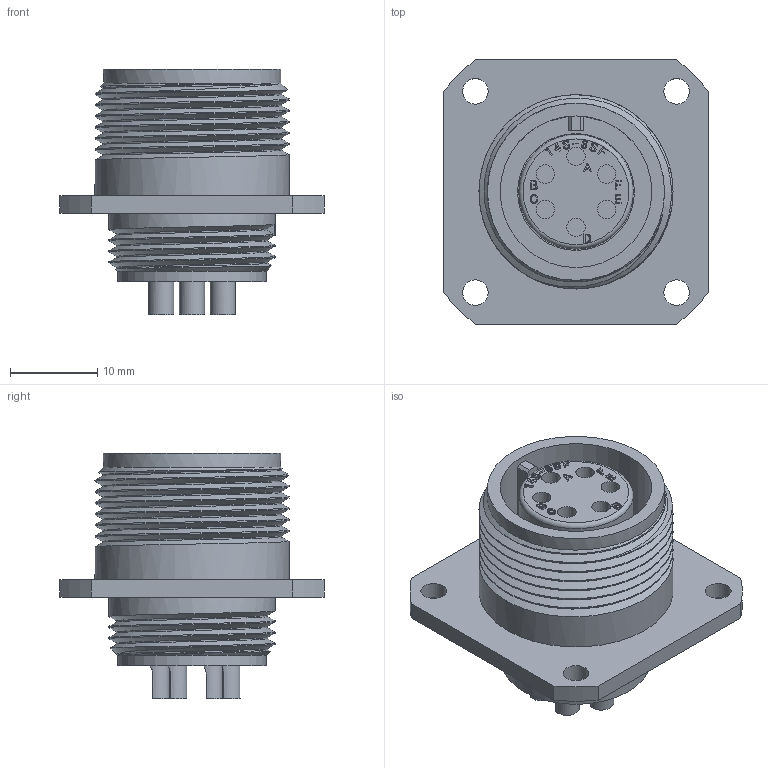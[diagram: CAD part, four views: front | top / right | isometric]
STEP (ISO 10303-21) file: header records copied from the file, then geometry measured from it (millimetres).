
FILE_DESCRIPTION (( 'STEP AP203' ), '1' );
FILE_NAME ('DMS3100A14S-6S(D263).STEP', '2022-01-26T02:52:20', ( '' ), ( '' ), 'SwSTEP 2.0', 'SolidWorks 2018', '' );
FILE_SCHEMA (( 'CONFIG_CONTROL_DESIGN' ));
Length unit declared in the file: millimetre
Products named in the file (1): DMS3100A14S-6S(D263)
Bounding box: 30.2 x 30.2 x 28.12 mm (x, y, z)
Volume: 6800.7 mm3; surface area: 6396.7 mm2
Topology: 1 solids, 1 shells, 690 faces, 1850 edges, 1224 vertices
Faces by surface type: plane 315, bspline 256, cylinder 96, torus 21, cone 2
Full cylindrical faces by diameter (mm): 2.11 x6, 2.93 x4, 11.78 x1, 13.08 x1, 13.36 x1, 14.86 x1, 16.98 x1, 17.34 x1, 19.01 x2, 20.26 x1, 22.19 x5
Entity records: 30268 total; most frequent: CARTESIAN_POINT 15067, ORIENTED_EDGE 3590, DIRECTION 2219, EDGE_CURVE 1795, VERTEX_POINT 1198, VECTOR 1043, LINE 1043, EDGE_LOOP 775
